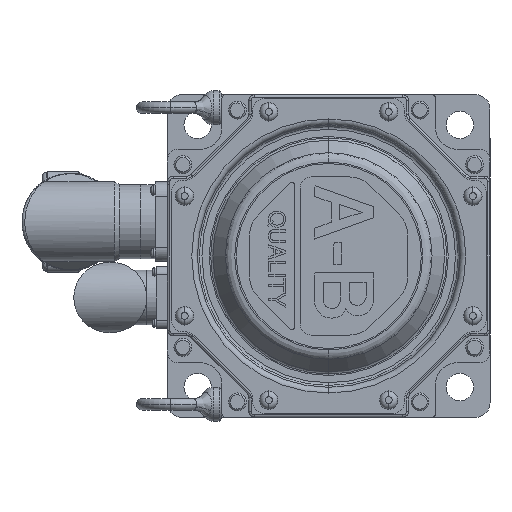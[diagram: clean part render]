
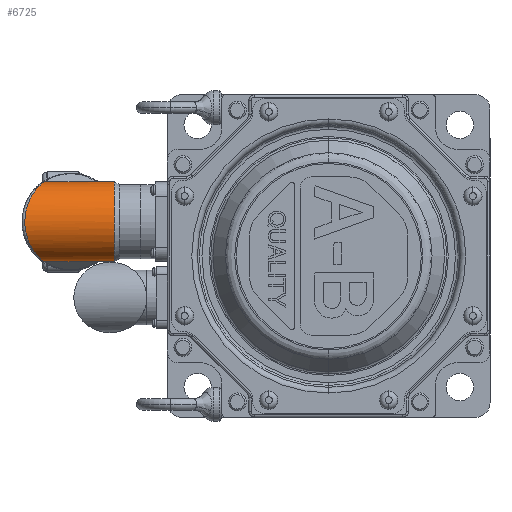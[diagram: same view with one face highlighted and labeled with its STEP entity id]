
A CAD part, left-side view. The second image highlights one B-rep face of the part: STEP entity #6725.
In plain terms, the highlighted cylindrical face has radius 17.78 mm (diameter 35.56 mm), a partial arc.
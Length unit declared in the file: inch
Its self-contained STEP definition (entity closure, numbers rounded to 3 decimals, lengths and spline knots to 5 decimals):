
#984 = B_SPLINE_CURVE_WITH_KNOTS ( 'NONE', 3,
 ( #1129, #1130, #1131, #1132, #1133, #1134, #1135, #1136, #1137, #1138, #1139, #1140, #1141, #1142, #1143, #1144, #1145, #1146, #1147, #1148, #1149, #1150, #1151, #1152, #1153, #1154, #1155, #1156, #1157, #1158, #1159, #1160, #1161, #1162, #1163, #1164, #1165, #1166, #1167, #1168, #1169, #1170, #1171, #1172, #1173, #1174, #1175, #1176, #1177, #1178, #1179, #1180, #1181, #1182, #1183, #1184, #1185, #1186, #1187, #1188, #1189, #1190 ),
 .UNSPECIFIED., .F., .F.,
 ( 4, 2, 2, 2, 2, 2, 2, 2, 2, 2, 2, 2, 2, 2, 2, 2, 2, 2, 2, 2, 2, 2, 2, 2, 2, 2, 2, 2, 2, 2, 4 ),
 ( 0.01191, 0.01284, 0.01377, 0.01562, 0.01655, 0.01747, 0.01933, 0.02303, 0.02489, 0.02674, 0.03045, 0.03415, 0.036, 0.03786, 0.03971, 0.04064, 0.04156, 0.04527, 0.04898, 0.0499, 0.05083, 0.05268, 0.05639, 0.05824, 0.0601, 0.0638, 0.06565, 0.06751, 0.06843, 0.06936, 0.07121 ),
 .UNSPECIFIED. ) ;
#1129 = CARTESIAN_POINT ( 'NONE',  ( 0., 0.47064, 0.7 ) ) ;
#1130 = CARTESIAN_POINT ( 'NONE',  ( -0.01221, 0.47064, 0.7 ) ) ;
#1131 = CARTESIAN_POINT ( 'NONE',  ( -0.02449, 0.47106, 0.69968 ) ) ;
#1132 = CARTESIAN_POINT ( 'NONE',  ( -0.04875, 0.47268, 0.69841 ) ) ;
#1133 = CARTESIAN_POINT ( 'NONE',  ( -0.06078, 0.47389, 0.69746 ) ) ;
#1134 = CARTESIAN_POINT ( 'NONE',  ( -0.09659, 0.47861, 0.69372 ) ) ;
#1135 = CARTESIAN_POINT ( 'NONE',  ( -0.12009, 0.48323, 0.69003 ) ) ;
#1136 = CARTESIAN_POINT ( 'NONE',  ( -0.15485, 0.49201, 0.68276 ) ) ;
#1137 = CARTESIAN_POINT ( 'NONE',  ( -0.16637, 0.49525, 0.68004 ) ) ;
#1138 = CARTESIAN_POINT ( 'NONE',  ( -0.1889, 0.50217, 0.67413 ) ) ;
#1139 = CARTESIAN_POINT ( 'NONE',  ( -0.19995, 0.50586, 0.67093 ) ) ;
#1140 = CARTESIAN_POINT ( 'NONE',  ( -0.23257, 0.51749, 0.66063 ) ) ;
#1141 = CARTESIAN_POINT ( 'NONE',  ( -0.25357, 0.52599, 0.65284 ) ) ;
#1142 = CARTESIAN_POINT ( 'NONE',  ( -0.31477, 0.55301, 0.62681 ) ) ;
#1143 = CARTESIAN_POINT ( 'NONE',  ( -0.35317, 0.573, 0.60597 ) ) ;
#1144 = CARTESIAN_POINT ( 'NONE',  ( -0.40794, 0.604, 0.56927 ) ) ;
#1145 = CARTESIAN_POINT ( 'NONE',  ( -0.42555, 0.61442, 0.55622 ) ) ;
#1146 = CARTESIAN_POINT ( 'NONE',  ( -0.4593, 0.63503, 0.52869 ) ) ;
#1147 = CARTESIAN_POINT ( 'NONE',  ( -0.47549, 0.64525, 0.51418 ) ) ;
#1148 = CARTESIAN_POINT ( 'NONE',  ( -0.5221, 0.67536, 0.46831 ) ) ;
#1149 = CARTESIAN_POINT ( 'NONE',  ( -0.55062, 0.69475, 0.43459 ) ) ;
#1150 = CARTESIAN_POINT ( 'NONE',  ( -0.602, 0.73058, 0.36006 ) ) ;
#1151 = CARTESIAN_POINT ( 'NONE',  ( -0.62418, 0.74654, 0.32025 ) ) ;
#1152 = CARTESIAN_POINT ( 'NONE',  ( -0.65184, 0.76671, 0.25621 ) ) ;
#1153 = CARTESIAN_POINT ( 'NONE',  ( -0.66015, 0.77282, 0.234 ) ) ;
#1154 = CARTESIAN_POINT ( 'NONE',  ( -0.67444, 0.78339, 0.18892 ) ) ;
#1155 = CARTESIAN_POINT ( 'NONE',  ( -0.68045, 0.78787, 0.16599 ) ) ;
#1156 = CARTESIAN_POINT ( 'NONE',  ( -0.69016, 0.79512, 0.11934 ) ) ;
#1157 = CARTESIAN_POINT ( 'NONE',  ( -0.69386, 0.79789, 0.09561 ) ) ;
#1158 = CARTESIAN_POINT ( 'NONE',  ( -0.69758, 0.80068, 0.0594 ) ) ;
#1159 = CARTESIAN_POINT ( 'NONE',  ( -0.69851, 0.80138, 0.04724 ) ) ;
#1160 = CARTESIAN_POINT ( 'NONE',  ( -0.69972, 0.80229, 0.02306 ) ) ;
#1161 = CARTESIAN_POINT ( 'NONE',  ( -0.70002, 0.80251, 0.011 ) ) ;
#1162 = CARTESIAN_POINT ( 'NONE',  ( -0.69993, 0.80245, -0.04916 ) ) ;
#1163 = CARTESIAN_POINT ( 'NONE',  ( -0.69494, 0.79868, -0.0969 ) ) ;
#1164 = CARTESIAN_POINT ( 'NONE',  ( -0.67509, 0.78387, -0.19124 ) ) ;
#1165 = CARTESIAN_POINT ( 'NONE',  ( -0.66067, 0.77315, -0.23592 ) ) ;
#1166 = CARTESIAN_POINT ( 'NONE',  ( -0.63763, 0.75635, -0.28907 ) ) ;
#1167 = CARTESIAN_POINT ( 'NONE',  ( -0.63277, 0.75282, -0.29957 ) ) ;
#1168 = CARTESIAN_POINT ( 'NONE',  ( -0.62254, 0.74543, -0.32029 ) ) ;
#1169 = CARTESIAN_POINT ( 'NONE',  ( -0.61715, 0.74156, -0.33054 ) ) ;
#1170 = CARTESIAN_POINT ( 'NONE',  ( -0.60043, 0.7296, -0.36057 ) ) ;
#1171 = CARTESIAN_POINT ( 'NONE',  ( -0.58849, 0.72115, -0.37971 ) ) ;
#1172 = CARTESIAN_POINT ( 'NONE',  ( -0.55044, 0.69463, -0.43474 ) ) ;
#1173 = CARTESIAN_POINT ( 'NONE',  ( -0.52214, 0.67539, -0.46828 ) ) ;
#1174 = CARTESIAN_POINT ( 'NONE',  ( -0.4753, 0.64512, -0.51437 ) ) ;
#1175 = CARTESIAN_POINT ( 'NONE',  ( -0.45886, 0.63475, -0.52908 ) ) ;
#1176 = CARTESIAN_POINT ( 'NONE',  ( -0.42494, 0.61406, -0.55669 ) ) ;
#1177 = CARTESIAN_POINT ( 'NONE',  ( -0.40745, 0.60372, -0.56961 ) ) ;
#1178 = CARTESIAN_POINT ( 'NONE',  ( -0.35325, 0.57306, -0.60589 ) ) ;
#1179 = CARTESIAN_POINT ( 'NONE',  ( -0.3149, 0.55305, -0.62678 ) ) ;
#1180 = CARTESIAN_POINT ( 'NONE',  ( -0.2529, 0.52571, -0.6531 ) ) ;
#1181 = CARTESIAN_POINT ( 'NONE',  ( -0.23148, 0.51707, -0.66102 ) ) ;
#1182 = CARTESIAN_POINT ( 'NONE',  ( -0.18783, 0.50157, -0.67472 ) ) ;
#1183 = CARTESIAN_POINT ( 'NONE',  ( -0.1655, 0.49467, -0.68056 ) ) ;
#1184 = CARTESIAN_POINT ( 'NONE',  ( -0.13109, 0.48602, -0.68772 ) ) ;
#1185 = CARTESIAN_POINT ( 'NONE',  ( -0.11947, 0.48342, -0.68983 ) ) ;
#1186 = CARTESIAN_POINT ( 'NONE',  ( -0.09589, 0.47887, -0.6935 ) ) ;
#1187 = CARTESIAN_POINT ( 'NONE',  ( -0.08389, 0.47692, -0.69506 ) ) ;
#1188 = CARTESIAN_POINT ( 'NONE',  ( -0.04798, 0.47224, -0.69877 ) ) ;
#1189 = CARTESIAN_POINT ( 'NONE',  ( -0.02401, 0.47064, -0.7 ) ) ;
#1190 = CARTESIAN_POINT ( 'NONE',  ( 0., 0.47064, -0.7 ) ) ;
#1192 = LINE ( 'NONE', #1193, #9983 ) ;
#1193 = CARTESIAN_POINT ( 'NONE',  ( 0., 1.033, -0.7 ) ) ;
#1194 = DIRECTION ( 'NONE',  ( 0., -1., 0. ) ) ;
#1926 = CARTESIAN_POINT ( 'NONE',  ( 0., -0.7659, 0. ) ) ;
#1930 = DIRECTION ( 'NONE',  ( 0., 1., 0. ) ) ;
#1931 = DIRECTION ( 'NONE',  ( 0., 0., 1. ) ) ;
#2052 = LINE ( 'NONE', #2053, #10149 ) ;
#2053 = CARTESIAN_POINT ( 'NONE',  ( 0., 1.033, 0.7 ) ) ;
#2054 = DIRECTION ( 'NONE',  ( 0., -1., 0. ) ) ;
#2206 = CARTESIAN_POINT ( 'NONE',  ( 0., 1.033, 0. ) ) ;
#2207 = DIRECTION ( 'NONE',  ( 0., -1., 0. ) ) ;
#2208 = DIRECTION ( 'NONE',  ( 0., 0., -1. ) ) ;
#6523 = EDGE_CURVE ( 'NONE', #31729, #31721, #984, .T. ) ;
#6524 = EDGE_CURVE ( 'NONE', #31721, #31614, #1192, .T. ) ;
#6673 = EDGE_CURVE ( 'NONE', #31614, #31610, #8718, .T. ) ;
#6707 = EDGE_CURVE ( 'NONE', #31729, #31610, #2052, .T. ) ;
#6725 = ADVANCED_FACE ( 'NONE', ( #10205 ), #10214, .T. ) ;
#8718 = CIRCLE ( 'NONE', #10114, 0.7 ) ;
#9983 = VECTOR ( 'NONE', #1194, 39.37008 ) ;
#10114 = AXIS2_PLACEMENT_3D ( 'NONE', #1926, #1930, #1931 ) ;
#10149 = VECTOR ( 'NONE', #2054, 39.37008 ) ;
#10205 = FACE_OUTER_BOUND ( 'NONE', #32079, .T. ) ;
#10213 = AXIS2_PLACEMENT_3D ( 'NONE', #2206, #2207, #2208 ) ;
#10214 = CYLINDRICAL_SURFACE ( 'NONE', #10213, 0.7 ) ;
#25309 = CARTESIAN_POINT ( 'NONE',  ( 0., -0.7659, 0.7 ) ) ;
#25313 = CARTESIAN_POINT ( 'NONE',  ( 0., -0.7659, -0.7 ) ) ;
#25420 = CARTESIAN_POINT ( 'NONE',  ( 0., 0.47064, -0.7 ) ) ;
#25428 = CARTESIAN_POINT ( 'NONE',  ( 0., 0.47064, 0.7 ) ) ;
#31610 = VERTEX_POINT ( 'NONE', #25309 ) ;
#31614 = VERTEX_POINT ( 'NONE', #25313 ) ;
#31721 = VERTEX_POINT ( 'NONE', #25420 ) ;
#31729 = VERTEX_POINT ( 'NONE', #25428 ) ;
#32079 = EDGE_LOOP ( 'NONE', ( #33602, #33386, #33603, #33387 ) ) ;
#33386 = ORIENTED_EDGE ( 'NONE', *, *, #6523, .T. ) ;
#33387 = ORIENTED_EDGE ( 'NONE', *, *, #6673, .T. ) ;
#33602 = ORIENTED_EDGE ( 'NONE', *, *, #6707, .F. ) ;
#33603 = ORIENTED_EDGE ( 'NONE', *, *, #6524, .T. ) ;
